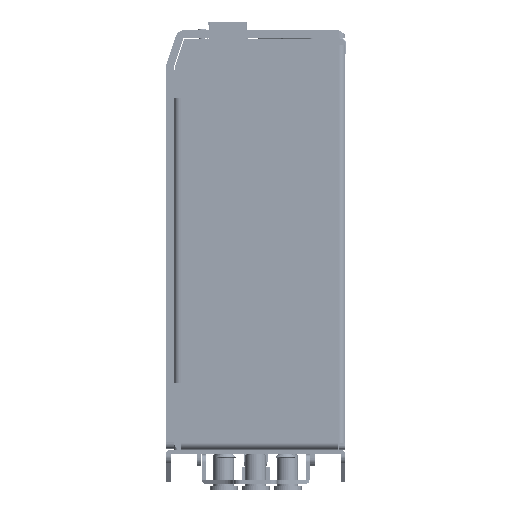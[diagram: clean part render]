
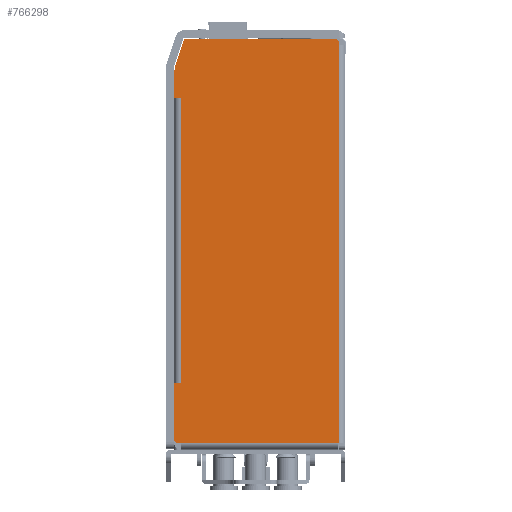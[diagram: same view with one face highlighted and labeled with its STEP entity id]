
A CAD part, left-side view. The second image highlights one B-rep face of the part: STEP entity #766298.
In plain terms, the highlighted planar face has unit normal (-1, 0, 0).
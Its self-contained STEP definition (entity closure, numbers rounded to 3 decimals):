
#758350=DIRECTION('',(0.,0.,1.));
#758351=VECTOR('',#758350,99.8);
#758352=CARTESIAN_POINT('',(-65.5,-12.3,-51.9));
#758353=LINE('',#758352,#758351);
#758839=DIRECTION('',(0.,-1.,0.));
#758840=VECTOR('',#758839,39.5);
#758841=CARTESIAN_POINT('',(-65.5,27.4,-51.9));
#758842=LINE('',#758841,#758840);
#758889=DIRECTION('',(0.,1.,0.));
#758890=VECTOR('',#758889,0.2);
#758891=CARTESIAN_POINT('',(-65.5,-12.3,-51.9));
#758892=LINE('',#758891,#758890);
#758896=DIRECTION('',(0.,1.,0.));
#758897=VECTOR('',#758896,0.6);
#758898=CARTESIAN_POINT('',(-65.5,27.4,-51.9));
#758899=LINE('',#758898,#758897);
#758903=CARTESIAN_POINT('',(-65.5,28.,-50.9));
#758904=DIRECTION('',(-1.,0.,0.));
#758905=DIRECTION('',(0.,1.,0.));
#758906=AXIS2_PLACEMENT_3D('',#758903,#758904,#758905);
#758911=CARTESIAN_POINT('',(-65.5,19.,40.205));
#758912=DIRECTION('',(-1.,0.,0.));
#758913=DIRECTION('',(0.,0.948,0.317));
#758914=AXIS2_PLACEMENT_3D('',#758911,#758912,#758913);
#758919=DIRECTION('',(0.,0.317,-0.948));
#758920=VECTOR('',#758919,5.885);
#758921=CARTESIAN_POINT('',(-65.5,26.616,48.959));
#758922=LINE('',#758921,#758920);
#758926=CARTESIAN_POINT('',(-65.5,26.142,48.8));
#758927=DIRECTION('',(-1.,0.,0.));
#758928=DIRECTION('',(0.,0.,1.));
#758929=AXIS2_PLACEMENT_3D('',#758926,#758927,#758928);
#758934=CARTESIAN_POINT('',(-65.5,-11.3,48.3));
#758935=DIRECTION('',(-1.,0.,0.));
#758936=DIRECTION('',(0.,-1.,0.));
#758937=AXIS2_PLACEMENT_3D('',#758934,#758935,#758936);
#758956=DIRECTION('',(0.,0.,1.));
#758957=VECTOR('',#758956,14.);
#758958=CARTESIAN_POINT('',(-65.5,29.,-50.9));
#758959=LINE('',#758958,#758957);
#758977=DIRECTION('',(0.,1.,0.));
#758978=VECTOR('',#758977,1.6);
#758979=CARTESIAN_POINT('',(-65.5,27.4,-36.9));
#758980=LINE('',#758979,#758978);
#758998=DIRECTION('',(0.,0.,-1.));
#758999=VECTOR('',#758998,71.4);
#759000=CARTESIAN_POINT('',(-65.5,27.4,34.5));
#759001=LINE('',#759000,#758999);
#759165=DIRECTION('',(0.,1.,0.));
#759166=VECTOR('',#759165,1.6);
#759167=CARTESIAN_POINT('',(-65.5,27.4,34.5));
#759168=LINE('',#759167,#759166);
#759193=DIRECTION('',(0.,0.,1.));
#759194=VECTOR('',#759193,5.705);
#759195=CARTESIAN_POINT('',(-65.5,29.,34.5));
#759196=LINE('',#759195,#759194);
#759242=DIRECTION('',(0.,-1.,0.));
#759243=VECTOR('',#759242,37.442);
#759244=CARTESIAN_POINT('',(-65.5,26.142,49.3));
#759245=LINE('',#759244,#759243);
#759270=DIRECTION('',(0.,0.,1.));
#759271=VECTOR('',#759270,0.4);
#759272=CARTESIAN_POINT('',(-65.5,-12.3,47.9));
#759273=LINE('',#759272,#759271);
#762123=CARTESIAN_POINT('',(-65.5,27.4,34.5));
#762125=VERTEX_POINT('',#762123);
#762132=CARTESIAN_POINT('',(-65.5,27.4,-36.9));
#762134=VERTEX_POINT('',#762132);
#762295=CARTESIAN_POINT('',(-65.5,-12.3,-51.9));
#762296=VERTEX_POINT('',#762295);
#762297=CARTESIAN_POINT('',(-65.5,-12.1,-51.9));
#762298=VERTEX_POINT('',#762297);
#762397=CARTESIAN_POINT('',(-65.5,27.4,-51.9));
#762398=VERTEX_POINT('',#762397);
#762409=CARTESIAN_POINT('',(-65.5,28.,-51.9));
#762410=VERTEX_POINT('',#762409);
#762411=CARTESIAN_POINT('',(-65.5,29.,-50.9));
#762412=VERTEX_POINT('',#762411);
#762413=CARTESIAN_POINT('',(-65.5,29.,-36.9));
#762414=VERTEX_POINT('',#762413);
#762415=CARTESIAN_POINT('',(-65.5,29.,34.5));
#762416=VERTEX_POINT('',#762415);
#762417=CARTESIAN_POINT('',(-65.5,29.,40.205));
#762418=VERTEX_POINT('',#762417);
#762419=CARTESIAN_POINT('',(-65.5,28.483,43.378));
#762420=VERTEX_POINT('',#762419);
#762421=CARTESIAN_POINT('',(-65.5,26.616,48.959));
#762422=VERTEX_POINT('',#762421);
#762423=CARTESIAN_POINT('',(-65.5,26.142,49.3));
#762424=VERTEX_POINT('',#762423);
#762425=CARTESIAN_POINT('',(-65.5,-11.3,49.3));
#762426=VERTEX_POINT('',#762425);
#762427=CARTESIAN_POINT('',(-65.5,-12.3,48.3));
#762428=VERTEX_POINT('',#762427);
#762429=CARTESIAN_POINT('',(-65.5,-12.3,47.9));
#762430=VERTEX_POINT('',#762429);
#766263=CARTESIAN_POINT('',(-65.5,8.35,-1.3));
#766264=DIRECTION('',(1.,0.,0.));
#766265=DIRECTION('',(0.,0.,1.));
#766266=AXIS2_PLACEMENT_3D('',#766263,#766264,#766265);
#766267=PLANE('',#766266);
#766268=ORIENTED_EDGE('',*,*,#765904,.T.);
#766269=ORIENTED_EDGE('',*,*,#766227,.F.);
#766270=ORIENTED_EDGE('',*,*,#766254,.T.);
#766272=ORIENTED_EDGE('',*,*,#766271,.F.);
#766274=ORIENTED_EDGE('',*,*,#766273,.T.);
#766276=ORIENTED_EDGE('',*,*,#766275,.F.);
#766278=ORIENTED_EDGE('',*,*,#766277,.F.);
#766280=ORIENTED_EDGE('',*,*,#766279,.T.);
#766282=ORIENTED_EDGE('',*,*,#766281,.T.);
#766284=ORIENTED_EDGE('',*,*,#766283,.F.);
#766286=ORIENTED_EDGE('',*,*,#766285,.F.);
#766288=ORIENTED_EDGE('',*,*,#766287,.F.);
#766290=ORIENTED_EDGE('',*,*,#766289,.T.);
#766292=ORIENTED_EDGE('',*,*,#766291,.F.);
#766294=ORIENTED_EDGE('',*,*,#766293,.F.);
#766295=ORIENTED_EDGE('',*,*,#765890,.F.);
#766296=EDGE_LOOP('',(#766268,#766269,#766270,#766272,#766274,#766276,#766278,
#766280,#766282,#766284,#766286,#766288,#766290,#766292,#766294,#766295));
#766297=FACE_OUTER_BOUND('',#766296,.F.);
#758907=CIRCLE('',#758906,1.);
#758915=CIRCLE('',#758914,10.);
#758930=CIRCLE('',#758929,0.5);
#758938=CIRCLE('',#758937,1.);
#765890=EDGE_CURVE('',#762296,#762430,#758353,.T.);
#765904=EDGE_CURVE('',#762296,#762298,#758892,.T.);
#766227=EDGE_CURVE('',#762398,#762298,#758842,.T.);
#766254=EDGE_CURVE('',#762398,#762410,#758899,.T.);
#766271=EDGE_CURVE('',#762412,#762410,#758907,.T.);
#766273=EDGE_CURVE('',#762412,#762414,#758959,.T.);
#766275=EDGE_CURVE('',#762134,#762414,#758980,.T.);
#766277=EDGE_CURVE('',#762125,#762134,#759001,.T.);
#766279=EDGE_CURVE('',#762125,#762416,#759168,.T.);
#766281=EDGE_CURVE('',#762416,#762418,#759196,.T.);
#766283=EDGE_CURVE('',#762420,#762418,#758915,.T.);
#766285=EDGE_CURVE('',#762422,#762420,#758922,.T.);
#766287=EDGE_CURVE('',#762424,#762422,#758930,.T.);
#766289=EDGE_CURVE('',#762424,#762426,#759245,.T.);
#766291=EDGE_CURVE('',#762428,#762426,#758938,.T.);
#766293=EDGE_CURVE('',#762430,#762428,#759273,.T.);
#766298=ADVANCED_FACE('',(#766297),#766267,.F.);
